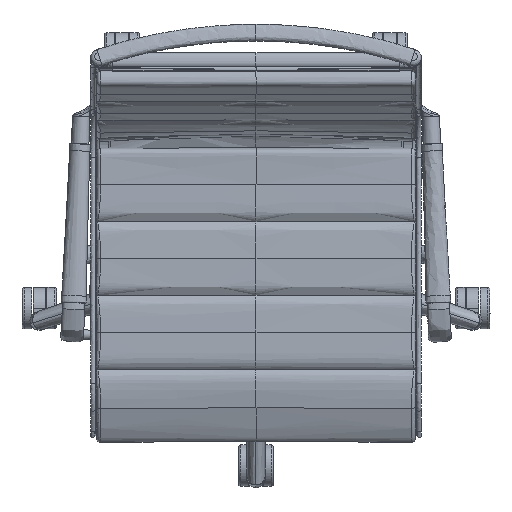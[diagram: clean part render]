
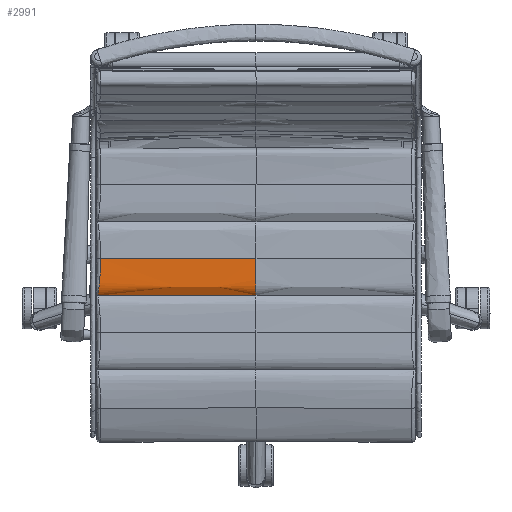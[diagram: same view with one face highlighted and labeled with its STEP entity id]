
A CAD part, top view. The second image highlights one B-rep face of the part: STEP entity #2991.
In plain terms, the highlighted free-form (B-spline) face has degree [3, 3] with [6, 6] control points.
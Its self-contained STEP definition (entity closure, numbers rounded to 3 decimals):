
#1334=B_SPLINE_CURVE_WITH_KNOTS('',3,(#56687,#56688,#56689,#56690,#56691,
#56692),.UNSPECIFIED.,.F.,.F.,(4,1,1,4),(-55.642,-37.095,
-18.547,0.),.UNSPECIFIED.);
#1335=B_SPLINE_CURVE_WITH_KNOTS('',3,(#56693,#56694,#56695,#56696,#56697),
 .UNSPECIFIED.,.F.,.F.,(4,1,4),(-41.954,-20.956,-0.327),
 .UNSPECIFIED.);
#1378=B_SPLINE_CURVE_WITH_KNOTS('',3,(#57110,#57111,#57112,#57113,#57114,
#57115,#57116),.UNSPECIFIED.,.F.,.F.,(4,1,1,1,4),(1.09,10.734,
21.14,31.547,41.954),.UNSPECIFIED.);
#1382=B_SPLINE_CURVE_WITH_KNOTS('',3,(#57150,#57151,#57152,#57153,#57154,
#57155,#57156,#57157,#57158,#57159,#57160,#57161,#57162),.UNSPECIFIED.,
 .F.,.F.,(4,1,1,1,1,1,1,1,1,1,4),(0.,2.457,
4.914,7.245,9.576,14.615,19.653,
26.926,34.199,43.778,53.358),
 .UNSPECIFIED.);
#2091=B_SPLINE_SURFACE_WITH_KNOTS('',3,3,((#54126,#54127,#54128,#54129,
#54130,#54131),(#54132,#54133,#54134,#54135,#54136,#54137),(#54138,#54139,
#54140,#54141,#54142,#54143),(#54144,#54145,#54146,#54147,#54148,#54149),
(#54150,#54151,#54152,#54153,#54154,#54155),(#54156,#54157,#54158,#54159,
#54160,#54161)),.UNSPECIFIED.,.F.,.F.,.F.,(4,1,1,4),(4,1,1,4),(0.327,
21.14,31.547,41.954),(0.,18.547,
37.095,55.642),.UNSPECIFIED.);
#2991=ADVANCED_FACE('',(#3794),#2091,.T.);
#3794=FACE_OUTER_BOUND('',#4601,.T.);
#4601=EDGE_LOOP('',(#7592,#7593,#7594,#7595));
#7592=ORIENTED_EDGE('',*,*,#10108,.F.);
#7593=ORIENTED_EDGE('',*,*,#10107,.F.);
#7594=ORIENTED_EDGE('',*,*,#10151,.F.);
#7595=ORIENTED_EDGE('',*,*,#10155,.F.);
#10107=EDGE_CURVE('',#12159,#12160,#1334,.T.);
#10108=EDGE_CURVE('',#12160,#12187,#1335,.T.);
#10151=EDGE_CURVE('',#12195,#12159,#1378,.T.);
#10155=EDGE_CURVE('',#12187,#12195,#1382,.T.);
#12159=VERTEX_POINT('',#56588);
#12160=VERTEX_POINT('',#56589);
#12187=VERTEX_POINT('',#56616);
#12195=VERTEX_POINT('',#56624);
#54126=CARTESIAN_POINT('',(-229.199,-66.269,506.084));
#54127=CARTESIAN_POINT('',(-229.199,-62.793,509.63));
#54128=CARTESIAN_POINT('',(-229.199,-54.126,513.202));
#54129=CARTESIAN_POINT('',(-229.199,-39.157,512.727));
#54130=CARTESIAN_POINT('',(-229.199,-21.423,512.164));
#54131=CARTESIAN_POINT('',(-229.199,-12.557,511.882));
#54132=CARTESIAN_POINT('',(-191.01,-66.085,506.078));
#54133=CARTESIAN_POINT('',(-191.01,-62.611,509.624));
#54134=CARTESIAN_POINT('',(-191.01,-53.947,513.196));
#54135=CARTESIAN_POINT('',(-191.011,-38.983,512.721));
#54136=CARTESIAN_POINT('',(-191.012,-21.256,512.158));
#54137=CARTESIAN_POINT('',(-191.012,-12.393,511.877));
#54138=CARTESIAN_POINT('',(-133.714,-65.879,506.071));
#54139=CARTESIAN_POINT('',(-133.714,-62.406,509.618));
#54140=CARTESIAN_POINT('',(-133.715,-53.746,513.19));
#54141=CARTESIAN_POINT('',(-133.716,-38.788,512.715));
#54142=CARTESIAN_POINT('',(-133.717,-21.068,512.152));
#54143=CARTESIAN_POINT('',(-133.718,-12.209,511.871));
#54144=CARTESIAN_POINT('',(-57.31,-65.742,506.067));
#54145=CARTESIAN_POINT('',(-57.31,-62.27,509.613));
#54146=CARTESIAN_POINT('',(-57.31,-53.611,513.186));
#54147=CARTESIAN_POINT('',(-57.311,-38.658,512.711));
#54148=CARTESIAN_POINT('',(-57.312,-20.943,512.148));
#54149=CARTESIAN_POINT('',(-57.312,-12.086,511.867));
#54150=CARTESIAN_POINT('',(-19.103,-65.719,506.066));
#54151=CARTESIAN_POINT('',(-19.103,-62.247,509.613));
#54152=CARTESIAN_POINT('',(-19.103,-53.589,513.185));
#54153=CARTESIAN_POINT('',(-19.103,-38.636,512.71));
#54154=CARTESIAN_POINT('',(-19.103,-20.922,512.148));
#54155=CARTESIAN_POINT('',(-19.103,-12.065,511.867));
#54156=CARTESIAN_POINT('',(0.,-65.719,506.066));
#54157=CARTESIAN_POINT('',(0.,-62.247,509.613));
#54158=CARTESIAN_POINT('',(0.,-53.589,513.185));
#54159=CARTESIAN_POINT('',(0.,-38.636,512.71));
#54160=CARTESIAN_POINT('',(0.,-20.922,512.148));
#54161=CARTESIAN_POINT('',(0.,-12.065,511.867));
#56588=CARTESIAN_POINT('',(0.,-12.065,511.867));
#56589=CARTESIAN_POINT('',(0.,-65.719,506.066));
#56616=CARTESIAN_POINT('',(-229.199,-66.269,506.084));
#56624=CARTESIAN_POINT('',(-225.001,-12.539,511.882));
#56687=CARTESIAN_POINT('',(0.,-12.065,511.867));
#56688=CARTESIAN_POINT('',(0.,-20.922,512.148));
#56689=CARTESIAN_POINT('',(0.,-38.636,512.71));
#56690=CARTESIAN_POINT('',(0.,-53.589,513.185));
#56691=CARTESIAN_POINT('',(0.,-62.247,509.613));
#56692=CARTESIAN_POINT('',(0.,-65.719,506.066));
#56693=CARTESIAN_POINT('',(0.,-65.719,506.066));
#56694=CARTESIAN_POINT('',(-38.545,-65.719,506.066));
#56695=CARTESIAN_POINT('',(-114.955,-65.811,506.069));
#56696=CARTESIAN_POINT('',(-191.348,-66.087,506.078));
#56697=CARTESIAN_POINT('',(-229.199,-66.269,506.084));
#57110=CARTESIAN_POINT('',(-225.001,-12.539,511.882));
#57111=CARTESIAN_POINT('',(-207.307,-12.464,511.879));
#57112=CARTESIAN_POINT('',(-170.514,-12.328,511.875));
#57113=CARTESIAN_POINT('',(-114.617,-12.178,511.87));
#57114=CARTESIAN_POINT('',(-57.312,-12.086,511.867));
#57115=CARTESIAN_POINT('',(-19.103,-12.065,511.867));
#57116=CARTESIAN_POINT('',(0.,-12.065,511.867));
#57150=CARTESIAN_POINT('',(-229.199,-66.269,506.084));
#57151=CARTESIAN_POINT('',(-229.066,-65.655,506.709));
#57152=CARTESIAN_POINT('',(-228.804,-64.327,507.898));
#57153=CARTESIAN_POINT('',(-228.427,-62.096,509.397));
#57154=CARTESIAN_POINT('',(-228.072,-59.701,510.583));
#57155=CARTESIAN_POINT('',(-227.614,-56.271,511.81));
#57156=CARTESIAN_POINT('',(-227.085,-51.715,512.659));
#57157=CARTESIAN_POINT('',(-226.467,-45.501,512.919));
#57158=CARTESIAN_POINT('',(-225.927,-38.901,512.718));
#57159=CARTESIAN_POINT('',(-225.43,-30.918,512.466));
#57160=CARTESIAN_POINT('',(-225.084,-22.107,512.185));
#57161=CARTESIAN_POINT('',(-225.001,-15.733,511.983));
#57162=CARTESIAN_POINT('',(-225.001,-12.539,511.882));
